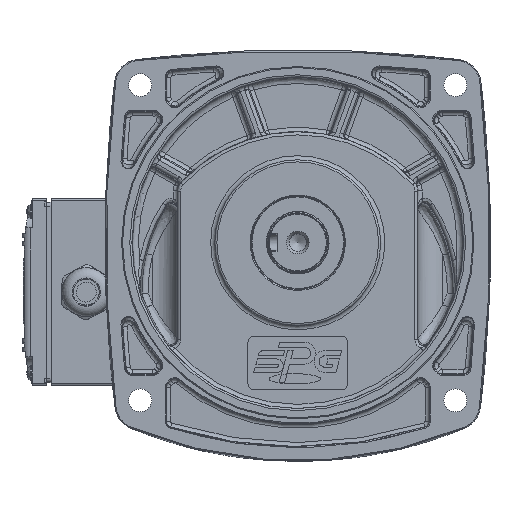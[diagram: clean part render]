
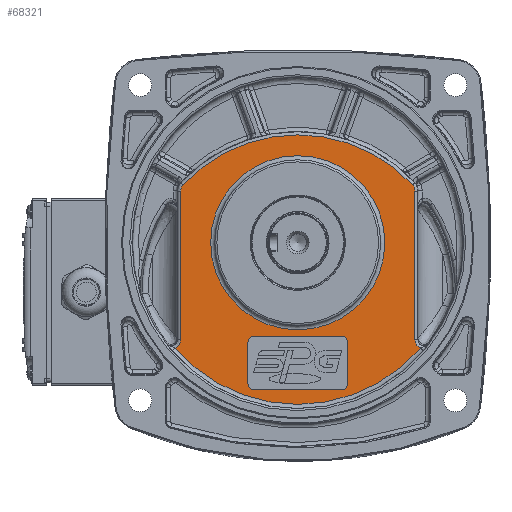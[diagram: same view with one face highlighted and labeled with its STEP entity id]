
A CAD part, top view. The second image highlights one B-rep face of the part: STEP entity #68321.
In plain terms, the highlighted planar face has unit normal (0, 0, 1).
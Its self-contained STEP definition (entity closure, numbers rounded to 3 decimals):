
#2308=FACE_BOUND('',#12961,.T.);
#2309=FACE_BOUND('',#12962,.T.);
#2926=PLANE('',#73929);
#8728=FACE_OUTER_BOUND('',#12960,.T.);
#12960=EDGE_LOOP('',(#52994,#52995,#52996,#52997,#52998,#52999,#53000,#53001));
#12961=EDGE_LOOP('',(#53002,#53003,#53004,#53005,#53006,#53007,#53008,#53009));
#12962=EDGE_LOOP('',(#53010));
#16397=B_SPLINE_CURVE_WITH_KNOTS('',3,(#115371,#115372,#115373,#115374),
 .UNSPECIFIED.,.F.,.F.,(4,4),(0.,0.336),.UNSPECIFIED.);
#16398=B_SPLINE_CURVE_WITH_KNOTS('',3,(#115402,#115403,#115404,#115405),
 .UNSPECIFIED.,.F.,.F.,(4,4),(0.,0.336),.UNSPECIFIED.);
#16400=B_SPLINE_CURVE_WITH_KNOTS('',3,(#115458,#115459,#115460,#115461,
#115462),.UNSPECIFIED.,.F.,.F.,(4,1,4),(0.,0.318,0.51),
 .UNSPECIFIED.);
#16507=B_SPLINE_CURVE_WITH_KNOTS('',3,(#117583,#117584,#117585,#117586,
#117587),.UNSPECIFIED.,.F.,.F.,(4,1,4),(0.603,0.795,
1.113),.UNSPECIFIED.);
#19971=CIRCLE('',#73733,75.535);
#19996=CIRCLE('',#73771,42.);
#20095=CIRCLE('',#73930,77.963);
#20096=CIRCLE('',#73931,3.);
#20097=CIRCLE('',#73932,3.);
#20098=CIRCLE('',#73933,3.);
#20099=CIRCLE('',#73934,3.);
#23721=LINE('',#115342,#27007);
#23722=LINE('',#115408,#27008);
#23779=LINE('',#117590,#27065);
#23780=LINE('',#117594,#27066);
#23781=LINE('',#117598,#27067);
#23782=LINE('',#117602,#27068);
#27007=VECTOR('',#85030,10.);
#27008=VECTOR('',#85047,10.);
#27065=VECTOR('',#85490,10.);
#27066=VECTOR('',#85493,10.);
#27067=VECTOR('',#85496,10.);
#27068=VECTOR('',#85499,10.);
#31349=VERTEX_POINT('',#115339);
#31350=VERTEX_POINT('',#115341);
#31352=VERTEX_POINT('',#115365);
#31353=VERTEX_POINT('',#115376);
#31354=VERTEX_POINT('',#115400);
#31355=VERTEX_POINT('',#115407);
#31356=VERTEX_POINT('',#115445);
#31388=VERTEX_POINT('',#115629);
#31525=VERTEX_POINT('',#117581);
#31526=VERTEX_POINT('',#117588);
#31527=VERTEX_POINT('',#117589);
#31528=VERTEX_POINT('',#117591);
#31529=VERTEX_POINT('',#117593);
#31530=VERTEX_POINT('',#117595);
#31531=VERTEX_POINT('',#117597);
#31532=VERTEX_POINT('',#117599);
#31533=VERTEX_POINT('',#117601);
#38926=EDGE_CURVE('',#31349,#31350,#23721,.T.);
#38930=EDGE_CURVE('',#31350,#31352,#16397,.T.);
#38931=EDGE_CURVE('',#31352,#31353,#19971,.T.);
#38935=EDGE_CURVE('',#31353,#31354,#16398,.T.);
#38936=EDGE_CURVE('',#31354,#31355,#23722,.T.);
#38939=EDGE_CURVE('',#31355,#31356,#16400,.T.);
#38982=EDGE_CURVE('',#31388,#31388,#19996,.T.);
#39221=EDGE_CURVE('',#31356,#31525,#20095,.T.);
#39222=EDGE_CURVE('',#31525,#31349,#16507,.T.);
#39223=EDGE_CURVE('',#31526,#31527,#23779,.T.);
#39224=EDGE_CURVE('',#31528,#31527,#20096,.T.);
#39225=EDGE_CURVE('',#31528,#31529,#23780,.T.);
#39226=EDGE_CURVE('',#31530,#31529,#20097,.T.);
#39227=EDGE_CURVE('',#31530,#31531,#23781,.T.);
#39228=EDGE_CURVE('',#31532,#31531,#20098,.T.);
#39229=EDGE_CURVE('',#31532,#31533,#23782,.T.);
#39230=EDGE_CURVE('',#31526,#31533,#20099,.T.);
#52994=ORIENTED_EDGE('',*,*,#39221,.F.);
#52995=ORIENTED_EDGE('',*,*,#38939,.F.);
#52996=ORIENTED_EDGE('',*,*,#38936,.F.);
#52997=ORIENTED_EDGE('',*,*,#38935,.F.);
#52998=ORIENTED_EDGE('',*,*,#38931,.F.);
#52999=ORIENTED_EDGE('',*,*,#38930,.F.);
#53000=ORIENTED_EDGE('',*,*,#38926,.F.);
#53001=ORIENTED_EDGE('',*,*,#39222,.F.);
#53002=ORIENTED_EDGE('',*,*,#39223,.T.);
#53003=ORIENTED_EDGE('',*,*,#39224,.F.);
#53004=ORIENTED_EDGE('',*,*,#39225,.T.);
#53005=ORIENTED_EDGE('',*,*,#39226,.F.);
#53006=ORIENTED_EDGE('',*,*,#39227,.T.);
#53007=ORIENTED_EDGE('',*,*,#39228,.F.);
#53008=ORIENTED_EDGE('',*,*,#39229,.T.);
#53009=ORIENTED_EDGE('',*,*,#39230,.F.);
#53010=ORIENTED_EDGE('',*,*,#38982,.F.);
#68321=ADVANCED_FACE('',(#8728,#2308,#2309),#2926,.F.);
#73733=AXIS2_PLACEMENT_3D('',#115377,#85037,#85038);
#73771=AXIS2_PLACEMENT_3D('',#115631,#85131,#85132);
#73929=AXIS2_PLACEMENT_3D('',#117580,#85486,#85487);
#73930=AXIS2_PLACEMENT_3D('',#117582,#85488,#85489);
#73931=AXIS2_PLACEMENT_3D('',#117592,#85491,#85492);
#73932=AXIS2_PLACEMENT_3D('',#117596,#85494,#85495);
#73933=AXIS2_PLACEMENT_3D('',#117600,#85497,#85498);
#73934=AXIS2_PLACEMENT_3D('',#117603,#85500,#85501);
#85030=DIRECTION('',(0.,1.,0.));
#85037=DIRECTION('center_axis',(0.,0.,-1.));
#85038=DIRECTION('ref_axis',(0.,1.,0.));
#85047=DIRECTION('',(0.,-1.,0.));
#85131=DIRECTION('center_axis',(0.,0.,1.));
#85132=DIRECTION('ref_axis',(-1.,0.,0.));
#85486=DIRECTION('center_axis',(0.,0.,-1.));
#85487=DIRECTION('ref_axis',(-1.,0.,0.));
#85488=DIRECTION('center_axis',(0.,0.,-1.));
#85489=DIRECTION('ref_axis',(0.,-1.,0.));
#85490=DIRECTION('',(0.,1.,0.));
#85491=DIRECTION('center_axis',(0.,0.,1.));
#85492=DIRECTION('ref_axis',(-0.707,0.707,0.));
#85493=DIRECTION('',(1.,0.,0.));
#85494=DIRECTION('center_axis',(0.,0.,1.));
#85495=DIRECTION('ref_axis',(0.707,0.707,0.));
#85496=DIRECTION('',(0.,-1.,0.));
#85497=DIRECTION('center_axis',(0.,0.,1.));
#85498=DIRECTION('ref_axis',(0.707,-0.707,0.));
#85499=DIRECTION('',(-1.,0.,0.));
#85500=DIRECTION('center_axis',(0.,0.,1.));
#85501=DIRECTION('ref_axis',(-0.707,-0.707,0.));
#115339=CARTESIAN_POINT('',(-53.609,-23.142,56.));
#115341=CARTESIAN_POINT('',(-53.609,48.472,56.));
#115342=CARTESIAN_POINT('',(-53.609,-35.67,56.));
#115365=CARTESIAN_POINT('',(-52.402,51.541,56.));
#115371=CARTESIAN_POINT('Ctrl Pts',(-53.609,48.472,56.));
#115372=CARTESIAN_POINT('Ctrl Pts',(-53.609,49.591,56.));
#115373=CARTESIAN_POINT('Ctrl Pts',(-53.165,50.722,
56.));
#115374=CARTESIAN_POINT('Ctrl Pts',(-52.402,51.541,
56.));
#115376=CARTESIAN_POINT('',(58.184,51.541,56.));
#115377=CARTESIAN_POINT('Origin',(2.891,0.08,56.));
#115400=CARTESIAN_POINT('',(59.391,48.472,56.));
#115402=CARTESIAN_POINT('Ctrl Pts',(58.184,51.541,56.));
#115403=CARTESIAN_POINT('Ctrl Pts',(58.946,50.722,56.));
#115404=CARTESIAN_POINT('Ctrl Pts',(59.391,49.591,56.));
#115405=CARTESIAN_POINT('Ctrl Pts',(59.391,48.472,56.));
#115407=CARTESIAN_POINT('',(59.391,-23.142,56.));
#115408=CARTESIAN_POINT('',(59.391,-35.67,56.));
#115445=CARTESIAN_POINT('',(62.014,-27.239,56.));
#115458=CARTESIAN_POINT('Ctrl Pts',(59.391,-23.142,
56.));
#115459=CARTESIAN_POINT('Ctrl Pts',(59.391,-24.202,
56.));
#115460=CARTESIAN_POINT('Ctrl Pts',(60.023,-25.914,
56.));
#115461=CARTESIAN_POINT('Ctrl Pts',(61.43,-26.963,
56.));
#115462=CARTESIAN_POINT('Ctrl Pts',(62.016,-27.235,
56.));
#115629=CARTESIAN_POINT('',(44.891,23.58,56.));
#115631=CARTESIAN_POINT('Origin',(2.891,23.58,56.));
#117580=CARTESIAN_POINT('Origin',(2.891,0.08,56.));
#117581=CARTESIAN_POINT('',(-56.233,-27.239,56.));
#117582=CARTESIAN_POINT('Origin',(2.891,23.58,56.));
#117583=CARTESIAN_POINT('Ctrl Pts',(-56.235,-27.235,
56.));
#117584=CARTESIAN_POINT('Ctrl Pts',(-55.648,-26.963,
56.));
#117585=CARTESIAN_POINT('Ctrl Pts',(-54.241,-25.914,
56.));
#117586=CARTESIAN_POINT('Ctrl Pts',(-53.609,-24.202,
56.));
#117587=CARTESIAN_POINT('Ctrl Pts',(-53.609,-23.142,56.));
#117588=CARTESIAN_POINT('',(-21.109,-44.42,56.));
#117589=CARTESIAN_POINT('',(-21.109,-24.42,56.));
#117590=CARTESIAN_POINT('',(-21.109,-10.67,56.));
#117591=CARTESIAN_POINT('',(-18.109,-21.42,56.));
#117592=CARTESIAN_POINT('Origin',(-18.109,-24.42,56.));
#117593=CARTESIAN_POINT('',(23.891,-21.42,56.));
#117594=CARTESIAN_POINT('',(14.891,-21.42,56.));
#117595=CARTESIAN_POINT('',(26.891,-24.42,56.));
#117596=CARTESIAN_POINT('Origin',(23.891,-24.42,56.));
#117597=CARTESIAN_POINT('',(26.891,-44.42,56.));
#117598=CARTESIAN_POINT('',(26.891,-23.67,56.));
#117599=CARTESIAN_POINT('',(23.891,-47.42,56.));
#117600=CARTESIAN_POINT('Origin',(23.891,-44.42,56.));
#117601=CARTESIAN_POINT('',(-18.109,-47.42,56.));
#117602=CARTESIAN_POINT('',(-9.109,-47.42,56.));
#117603=CARTESIAN_POINT('Origin',(-18.109,-44.42,56.));
